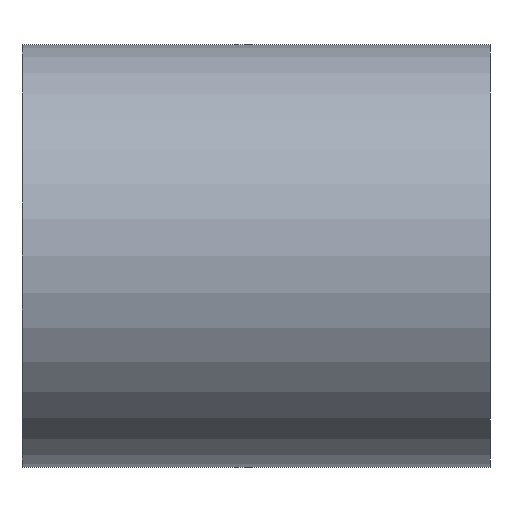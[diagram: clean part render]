
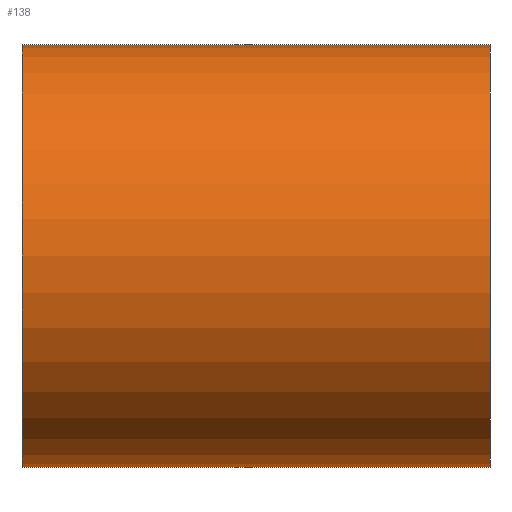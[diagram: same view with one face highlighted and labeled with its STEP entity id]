
A CAD part, front view. The second image highlights one B-rep face of the part: STEP entity #138.
In plain terms, the highlighted cylindrical face has radius 305 mm (diameter 610 mm), a partial arc.
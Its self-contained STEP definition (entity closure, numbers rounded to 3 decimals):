
#138=ADVANCED_FACE('',(#278),#279,.T.);
#278=FACE_OUTER_BOUND('',#429,.T.);
#279=CYLINDRICAL_SURFACE('',#430,305.0);
#429=EDGE_LOOP('',(#775,#776,#777,#778));
#430=AXIS2_PLACEMENT_3D('',#779,#780,#781);
#775=ORIENTED_EDGE('',*,*,#831,.T.);
#776=ORIENTED_EDGE('',*,*,#973,.F.);
#777=ORIENTED_EDGE('',*,*,#833,.T.);
#778=ORIENTED_EDGE('',*,*,#974,.F.);
#779=CARTESIAN_POINT('',(0.0,0.0,0.0));
#780=DIRECTION('',(1.0,0.0,0.0));
#781=DIRECTION('',(0.0,0.0,-1.0));
#831=EDGE_CURVE('',#978,#979,#980,.T.);
#833=EDGE_CURVE('',#983,#981,#984,.T.);
#973=EDGE_CURVE('',#983,#979,#1191,.T.);
#974=EDGE_CURVE('',#978,#981,#1192,.T.);
#978=VERTEX_POINT('',#1196);
#979=VERTEX_POINT('',#1197);
#980=LINE('',#1198,#1199);
#981=VERTEX_POINT('',#1200);
#983=VERTEX_POINT('',#1202);
#984=LINE('',#1203,#1204);
#1191=CIRCLE('',#1455,305.0);
#1192=CIRCLE('',#1456,305.0);
#1196=CARTESIAN_POINT('',(-337.5,0.0,-305.0));
#1197=CARTESIAN_POINT('',(337.5,0.0,-305.0));
#1198=CARTESIAN_POINT('',(0.0,0.,-305.0));
#1199=VECTOR('',#1459,1.0);
#1200=CARTESIAN_POINT('',(-337.5,0.,305.0));
#1202=CARTESIAN_POINT('',(337.5,0.,305.0));
#1203=CARTESIAN_POINT('',(0.0,0.,305.0));
#1204=VECTOR('',#1463,1.0);
#1455=AXIS2_PLACEMENT_3D('',#1682,#1683,#1684);
#1456=AXIS2_PLACEMENT_3D('',#1685,#1686,#1687);
#1459=DIRECTION('',(1.0,0.0,0.0));
#1463=DIRECTION('',(-1.0,-0.0,-0.0));
#1682=CARTESIAN_POINT('',(337.5,0.0,0.0));
#1683=DIRECTION('',(1.0,0.0,0.0));
#1684=DIRECTION('',(0.0,0.0,-1.0));
#1685=CARTESIAN_POINT('',(-337.5,0.0,0.0));
#1686=DIRECTION('',(-1.0,0.0,0.0));
#1687=DIRECTION('',(0.0,0.0,-1.0));
